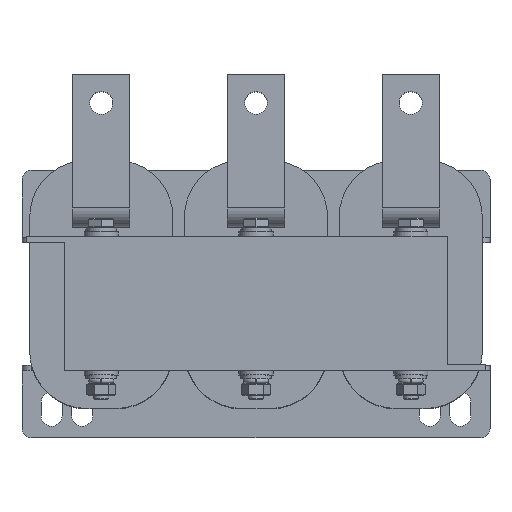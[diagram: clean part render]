
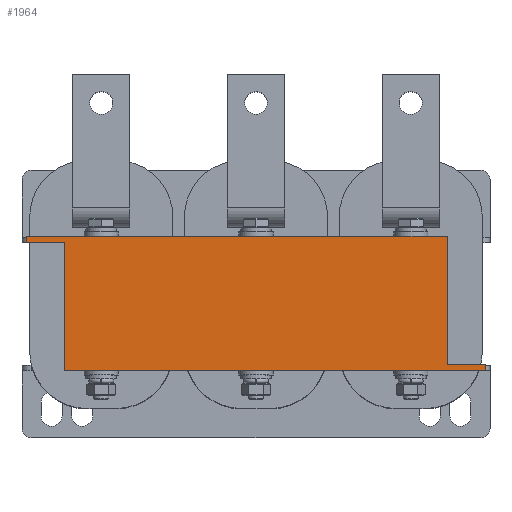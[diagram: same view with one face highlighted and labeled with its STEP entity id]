
A CAD part, top view. The second image highlights one B-rep face of the part: STEP entity #1964.
In plain terms, the highlighted planar face has unit normal (0, 0, 1).
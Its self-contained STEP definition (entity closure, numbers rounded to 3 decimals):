
#1964=ADVANCED_FACE('',(#2726),#2728,.T.);
#2726=FACE_BOUND('',#2727,.T.);
#2727=EDGE_LOOP('',(#3630,#3631,#3632,#3633,#3634,#3635,#3636,#3637));
#2728=PLANE('',#2729);
#2729=AXIS2_PLACEMENT_3D('',#2730,#2731,#2732);
#2730=CARTESIAN_POINT('',(0.,0.,43.));
#2731=DIRECTION('',(0.,0.,1.));
#2732=DIRECTION('',(-1.,0.,0.));
#3630=ORIENTED_EDGE('',*,*,#4072,.T.);
#3631=ORIENTED_EDGE('',*,*,#4091,.T.);
#3632=ORIENTED_EDGE('',*,*,#4061,.T.);
#3633=ORIENTED_EDGE('',*,*,#4092,.T.);
#3634=ORIENTED_EDGE('',*,*,#4053,.T.);
#3635=ORIENTED_EDGE('',*,*,#4093,.T.);
#3636=ORIENTED_EDGE('',*,*,#4042,.T.);
#3637=ORIENTED_EDGE('',*,*,#4090,.T.);
#4042=EDGE_CURVE('',#4496,#4494,#4497,.T.);
#4053=EDGE_CURVE('',#4518,#4516,#4519,.T.);
#4061=EDGE_CURVE('',#4534,#4532,#4535,.T.);
#4072=EDGE_CURVE('',#4556,#4554,#4557,.T.);
#4090=EDGE_CURVE('',#4494,#4556,#4579,.T.);
#4091=EDGE_CURVE('',#4554,#4534,#4580,.T.);
#4092=EDGE_CURVE('',#4532,#4518,#4581,.T.);
#4093=EDGE_CURVE('',#4516,#4496,#4582,.T.);
#4494=VERTEX_POINT('',#5450);
#4496=VERTEX_POINT('',#5454);
#4497=LINE('',#5455,#5456);
#4516=VERTEX_POINT('',#5499);
#4518=VERTEX_POINT('',#5503);
#4519=LINE('',#5504,#5505);
#4532=VERTEX_POINT('',#5533);
#4534=VERTEX_POINT('',#5537);
#4535=LINE('',#5538,#5539);
#4554=VERTEX_POINT('',#5582);
#4556=VERTEX_POINT('',#5586);
#4557=LINE('',#5587,#5588);
#4579=LINE('',#5647,#5648);
#4580=LINE('',#5650,#5651);
#4581=LINE('',#5653,#5654);
#4582=LINE('',#5656,#5657);
#5450=CARTESIAN_POINT('',(-120.,35.,43.));
#5454=CARTESIAN_POINT('',(100.,35.,43.));
#5455=CARTESIAN_POINT('',(100.,35.,43.));
#5456=VECTOR('',#5457,1.);
#5457=DIRECTION('',(-1.,0.,0.));
#5499=CARTESIAN_POINT('',(100.,-32.,43.));
#5503=CARTESIAN_POINT('',(120.,-32.,43.));
#5504=CARTESIAN_POINT('',(120.,-32.,43.));
#5505=VECTOR('',#5506,1.);
#5506=DIRECTION('',(-1.,0.,0.));
#5533=CARTESIAN_POINT('',(120.,-35.,43.));
#5537=CARTESIAN_POINT('',(-100.,-35.,43.));
#5538=CARTESIAN_POINT('',(-100.,-35.,43.));
#5539=VECTOR('',#5540,1.);
#5540=DIRECTION('',(1.,0.,0.));
#5582=CARTESIAN_POINT('',(-100.,32.,43.));
#5586=CARTESIAN_POINT('',(-120.,32.,43.));
#5587=CARTESIAN_POINT('',(-120.,32.,43.));
#5588=VECTOR('',#5589,1.);
#5589=DIRECTION('',(1.,0.,0.));
#5647=CARTESIAN_POINT('',(-120.,35.,43.));
#5648=VECTOR('',#5649,1.);
#5649=DIRECTION('',(0.,-1.,0.));
#5650=CARTESIAN_POINT('',(-100.,32.,43.));
#5651=VECTOR('',#5652,1.);
#5652=DIRECTION('',(0.,-1.,0.));
#5653=CARTESIAN_POINT('',(120.,-35.,43.));
#5654=VECTOR('',#5655,1.);
#5655=DIRECTION('',(0.,1.,0.));
#5656=CARTESIAN_POINT('',(100.,-32.,43.));
#5657=VECTOR('',#5658,1.);
#5658=DIRECTION('',(0.,1.,0.));
